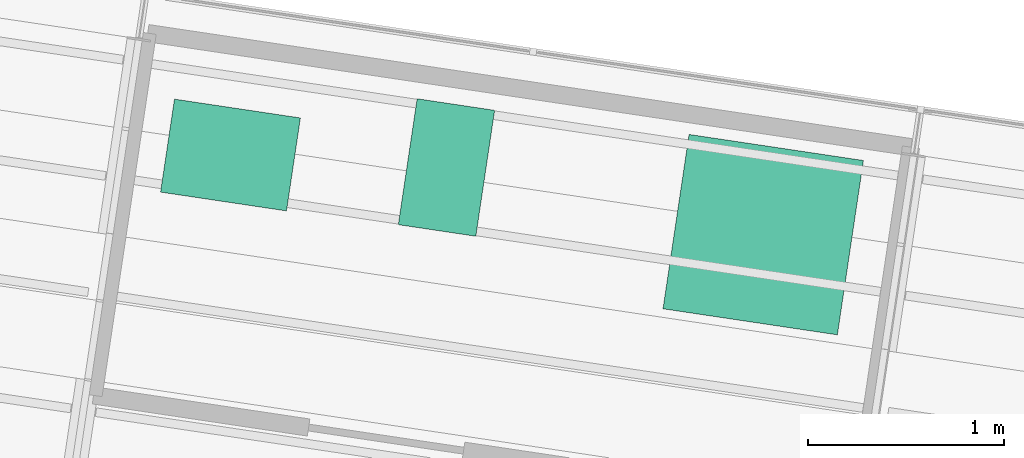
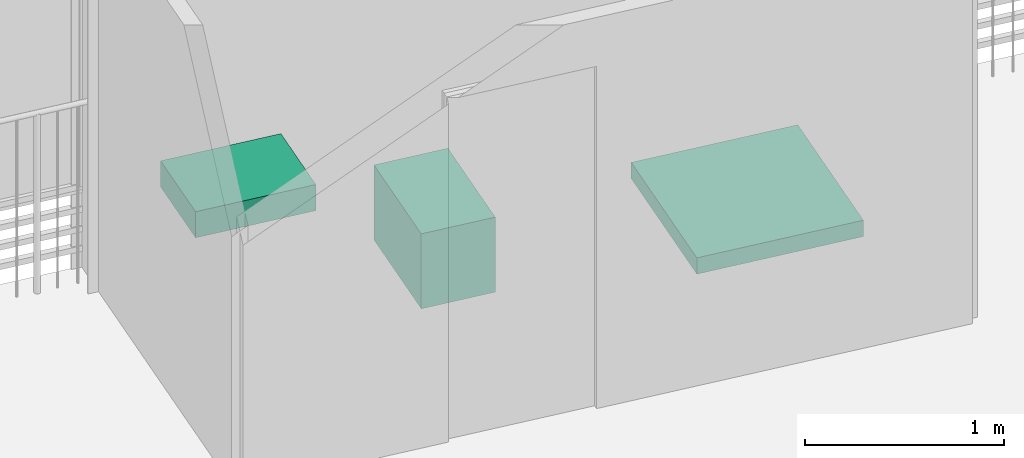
# One storey, part 34 of 34: 3 sanitary terminals.
"""IFC4 building model written with IfcOpenShell, lengths in metres."""

from ifc_helpers import new_model, si_unit, direction, frame, origin_with_axes, place, context, subcontext, project, spatial, polyline, outline, extrude, material, element, save


model = new_model("IFC4")

# Units and contexts
model_context = context("Model", 3, precision=1e-05, world=origin_with_axes(), true_north=direction((0.0, 1.0)))
body_context = subcontext(model_context, "Body", "Model", "MODEL_VIEW")
ifc_project = project(units=[si_unit("AREAUNIT", "SQUARE_METRE"), si_unit("VOLUMEUNIT", "CUBIC_METRE"), si_unit("LENGTHUNIT", "METRE")], contexts=[model_context])

# Site, building, storey
site_placement = place(None, origin_with_axes())
site = spatial("IfcSite", under=ifc_project, at=site_placement, Name="Lares · Rua das Mercês · artigo 4771")
building_placement = place(site_placement, frame((15.0, 9.7, 14.65), z_axis=(0.0, 0.0, 1.0), x_axis=(0.989015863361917, -0.147809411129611, 0.0)))
building = spatial("IfcBuilding", under=site, at=building_placement, Name="Casa Sobreposta")
storey_placement = place(building_placement, frame((0.0, 0.0, 3.24), z_axis=(0.0, 0.0, 1.0), x_axis=(1.0, 0.0, 0.0)))
storey = spatial("IfcBuildingStorey", under=building, at=storey_placement, Name="01 · Jardim de inverno", Elevation=17.89)

# Sanitary terminals
ifc_material = material(Name="Cerâmica sanitária — esquema", Category="ceramic")
sanitary_terminal_1_placement = place(storey_placement, frame((0.0, 0.0, 0.76), z_axis=(0.0, 0.0, 1.0), x_axis=(1.0, 0.0, 0.0)))
element("IfcSanitaryTerminal", 1, at=sanitary_terminal_1_placement, inside=storey, material=ifc_material, Name="Lavatório superior", PredefinedType="WASHHANDBASIN", context=body_context, shape_type="SweptSolid", body=[
    extrude(outline(polyline([(8.875, 5.41), (8.875, 5.89), (8.225, 5.89), (8.225, 5.41), (8.875, 5.41)])), origin_with_axes(), (0.0, 0.0, 1.0), 0.16),
])
sanitary_terminal_2_placement = place(storey_placement, origin_with_axes())
element("IfcSanitaryTerminal", 2, at=sanitary_terminal_2_placement, inside=storey, material=ifc_material, Name="Sanita superior", PredefinedType="TOILETPAN", context=body_context, shape_type="SweptSolid", body=[
    extrude(outline(polyline([(9.85, 5.425), (9.85, 6.075), (9.45, 6.075), (9.45, 5.425), (9.85, 5.425)])), origin_with_axes(), (0.0, 0.0, 1.0), 0.46),
])
sanitary_terminal_3_placement = place(storey_placement, origin_with_axes())
element("IfcSanitaryTerminal", 3, at=sanitary_terminal_3_placement, inside=storey, material=ifc_material, Name="Duche superior", PredefinedType="SHOWER", context=body_context, shape_type="SweptSolid", body=[
    extrude(outline(polyline([(11.75, 5.2), (11.75, 6.1), (10.85, 6.1), (10.85, 5.2), (11.75, 5.2)])), origin_with_axes(), (0.0, 0.0, 1.0), 0.1),
])

save(model, "model.ifc")
